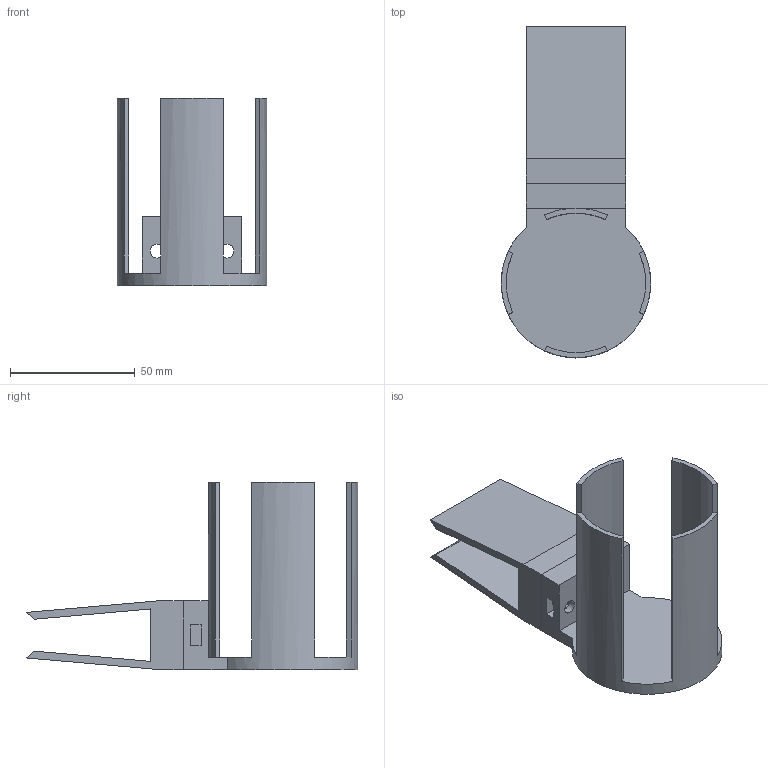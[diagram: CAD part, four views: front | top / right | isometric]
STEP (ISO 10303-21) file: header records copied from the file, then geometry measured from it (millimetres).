
FILE_DESCRIPTION(/* description */ (''),/* implementation_level */ '2;1');
FILE_NAME(/* name */ 'cup_holder_2_v2 v4.step',/* time_stamp */ '2026-04-10T14:28:48+02:00',/* author */ (''),/* organization */ (''),/* preprocessor_version */ 'ST-DEVELOPER v20.1',/* originating_system */ 'Autodesk Translation Framework v14.24.0.0',/* authorisation */ '');
FILE_SCHEMA (('AUTOMOTIVE_DESIGN { 1 0 10303 214 3 1 1 }'));
Length unit declared in the file: millimetre
Products named in the file (1): (Niezapisany)
Bounding box: 59.99 x 133.07 x 75 mm (x, y, z)
Volume: 63828.5 mm3; surface area: 38579.7 mm2
Topology: 2 solids, 2 shells, 58 faces, 148 edges, 98 vertices
Faces by surface type: plane 44, cylinder 14
Full cylindrical faces by diameter (mm): 5.5 x6, 8.5 x2
Entity records: 1814 total; most frequent: CARTESIAN_POINT 306, DIRECTION 302, ORIENTED_EDGE 298, EDGE_CURVE 149, LINE 114, VECTOR 114, VERTEX_POINT 98, AXIS2_PLACEMENT_3D 94
